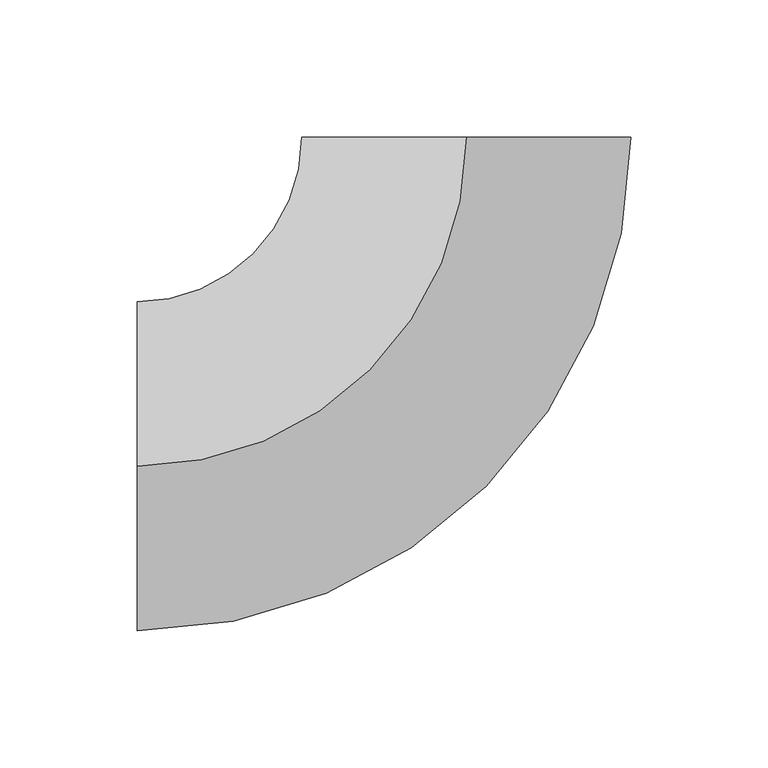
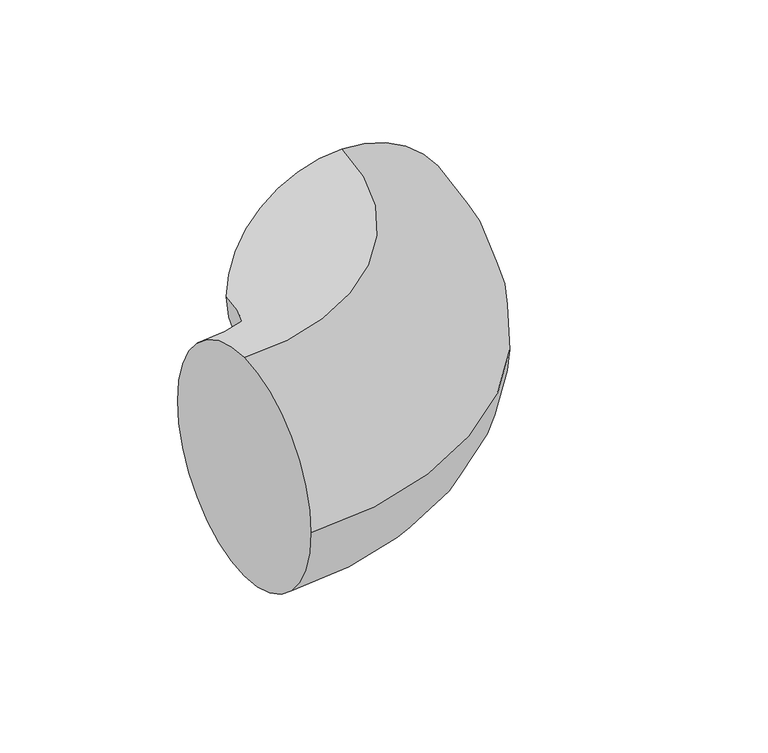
"""IFC4 building model written with IfcOpenShell, lengths in millimetres: duct fitting geometry, Семейство10 : Стандартная."""

from ifc_helpers import new_model, si_unit, point, frame, origin, place, context, project, spatial, circle_curve, ellipse_curve, trimmed, source, transform, mapped, element, save
from ifc_brep_helpers import plane_surface, revolved_surface, advanced_brep


def duct_fitting_3c3d5e25(model_context):
    return source(origin(), model_context, "Body", "AdvancedBrep", [
        advanced_brep(
        [(-120.0, 0.0, 60.0), (-120.0, 60.0, 0.0), (-120.0, 0.0, -60.0), (-120.0, -60.0, 0.0), (0.0, 120.0, 60.0), (60.0, 120.0, 0.0), (0.0, 120.0, -60.0), (-60.0, 120.0, 0.0)],
        [
            (0, 1, circle_curve(frame((-120.0, 0.0, 0.0), z_axis=(-1.0, 0.0, 0.0), x_axis=(0.0, 1.0, 0.0)), 60.0)),
            (1, 2, circle_curve(frame((-120.0, 0.0, 0.0), z_axis=(-1.0, 0.0, 0.0), x_axis=(0.0, 1.0, 0.0)), 60.0)),
            (2, 3, circle_curve(frame((-120.0, 0.0, 0.0), z_axis=(-1.0, 0.0, 0.0), x_axis=(0.0, 1.0, 0.0)), 60.0)),
            (3, 0, circle_curve(frame((-120.0, 0.0, 0.0), z_axis=(-1.0, 0.0, 0.0), x_axis=(0.0, 1.0, 0.0)), 60.0)),
            (4, 5, circle_curve(frame((0.0, 120.0, 0.0), z_axis=(0.0, 1.0, 0.0), x_axis=(-1.0, 0.0, 0.0)), 60.0)),
            (5, 6, circle_curve(frame((0.0, 120.0, 0.0), z_axis=(0.0, 1.0, 0.0), x_axis=(-1.0, 0.0, 0.0)), 60.0)),
            (6, 7, circle_curve(frame((0.0, 120.0, 0.0), z_axis=(0.0, 1.0, 0.0), x_axis=(-1.0, 0.0, 0.0)), 60.0)),
            (7, 4, circle_curve(frame((0.0, 120.0, 0.0), z_axis=(0.0, 1.0, 0.0), x_axis=(-1.0, 0.0, 0.0)), 60.0)),
            (7, 1, circle_curve(frame((-120.0, 120.0, 0.0), z_axis=(0.0, 0.0, -1.0), x_axis=(0.0, -1.0, 0.0)), 60.0)),
            (0, 4, circle_curve(frame((-120.0, 120.0, 60.0), z_axis=(0.0, 0.0, 1.0), x_axis=(0.0, -1.0, 0.0)), 120.0)),
            (6, 2, circle_curve(frame((-120.0, 120.0, -60.0), z_axis=(0.0, 0.0, -1.0), x_axis=(0.0, -1.0, 0.0)), 120.0)),
            (5, 3, circle_curve(frame((-120.0, 120.0, 0.0), z_axis=(0.0, 0.0, -1.0), x_axis=(0.0, -1.0, 0.0)), 180.0)),
        ],
        [
            plane_surface(frame((-120.0, 0.0, 0.0), z_axis=(-1.0, 0.0, 0.0), x_axis=(0.0, 0.0, 1.0))),
            plane_surface(frame((0.0, 120.0, 0.0), z_axis=(0.0, 1.0, 0.0), x_axis=(0.0, 0.0, 1.0))),
            revolved_surface(trimmed(ellipse_curve(frame((-120.0, 0.0, 0.0), z_axis=(-1.0, 0.0, 0.0), x_axis=(0.0, 1.0, 0.0)), 60.0, 60.0), [point((-120.0, 0.0, 60.0))], [point((-120.0, 60.0, 0.0))], True, "CARTESIAN"), (-120.0, 120.0, 0.0), (0.0, 0.0, 1.0)),
            revolved_surface(trimmed(ellipse_curve(frame((-120.0, 0.0, 0.0), z_axis=(-1.0, 0.0, 0.0), x_axis=(0.0, 1.0, 0.0)), 60.0, 60.0), [point((-120.0, 60.0, 0.0))], [point((-120.0, 0.0, -60.0))], True, "CARTESIAN"), (-120.0, 120.0, 0.0), (0.0, 0.0, 1.0)),
            revolved_surface(trimmed(ellipse_curve(frame((-120.0, 0.0, 0.0), z_axis=(-1.0, 0.0, 0.0), x_axis=(0.0, 1.0, 0.0)), 60.0, 60.0), [point((-120.0, 0.0, -60.0))], [point((-120.0, -60.0, 0.0))], True, "CARTESIAN"), (-120.0, 120.0, 0.0), (0.0, 0.0, 1.0)),
            revolved_surface(trimmed(ellipse_curve(frame((-120.0, 0.0, 0.0), z_axis=(-1.0, 0.0, 0.0), x_axis=(0.0, 1.0, 0.0)), 60.0, 60.0), [point((-120.0, -60.0, 0.0))], [point((-120.0, 0.0, 60.0))], True, "CARTESIAN"), (-120.0, 120.0, 0.0), (0.0, 0.0, 1.0)),
        ],
        [
            (0, [[1, 2, 3, 4]]),
            (1, [[5, 6, 7, 8]]),
            (2, [[9, -1, 10, -8]]),
            (3, [[11, -2, -9, -7]]),
            (4, [[12, -3, -11, -6]]),
            (5, [[-10, -4, -12, -5]]),
        ],
    ),
    ])


if __name__ == "__main__":
    model = new_model("IFC4")
    model_context = context("Model", 3, world=origin())
    ifc_project = project(units=[si_unit("LENGTHUNIT", "METRE", prefix="MILLI")], contexts=[model_context])
    site = spatial("IfcSite", under=ifc_project)
    building = spatial("IfcBuilding", under=site)
    placement = place(None, origin())
    duct_fitting_shape = duct_fitting_3c3d5e25(model_context)
    element("IfcDuctFitting", 1, ObjectType="Семейство10 : Стандартная", at=placement, inside=building, context=model_context, shape_type="MappedRepresentation", body=[
        mapped(duct_fitting_shape, transform((0.0, 0.0, 0.0), x_axis=(1.0, 0.0, 0.0), y_axis=(0.0, 1.0, 0.0), z_axis=(0.0, 0.0, 1.0))),
    ])
    save(model, "model.ifc")
